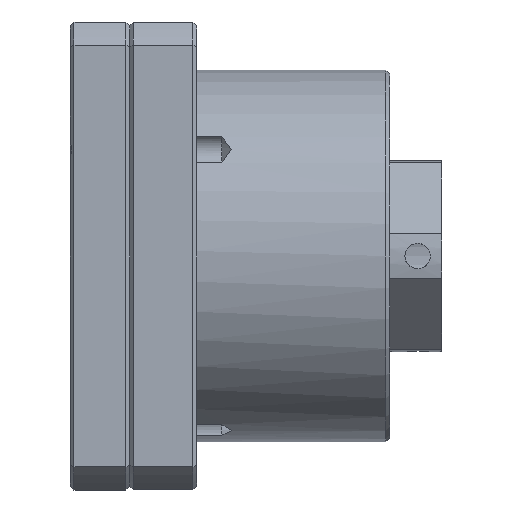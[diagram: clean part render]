
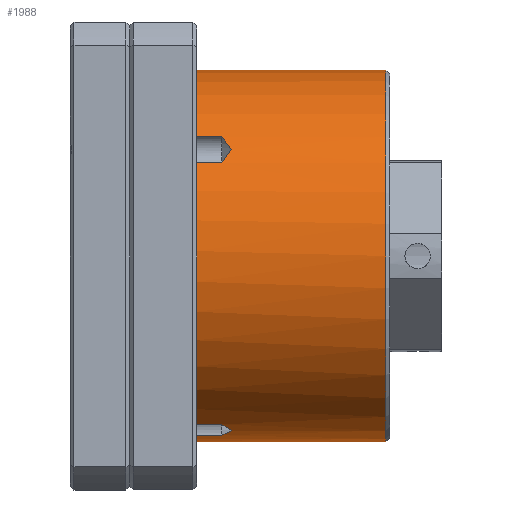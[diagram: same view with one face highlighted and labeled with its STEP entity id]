
A CAD part, left-side view. The second image highlights one B-rep face of the part: STEP entity #1988.
In plain terms, the highlighted cylindrical face has radius 25 mm (diameter 50 mm), a partial arc.
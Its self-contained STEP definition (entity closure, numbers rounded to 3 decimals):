
#35 = B_SPLINE_CURVE_WITH_KNOTS ( 'NONE', 3,
 ( #2983, #2976, #2883, #2877 ),
 .UNSPECIFIED., .F., .F.,
 ( 4, 4 ),
 ( 0.002, 0.004 ),
 .UNSPECIFIED. ) ;
#136 = ORIENTED_EDGE ( 'NONE', *, *, #5717, .T. ) ;
#171 = ORIENTED_EDGE ( 'NONE', *, *, #4234, .F. ) ;
#175 = CIRCLE ( 'NONE', #6071, 25. ) ;
#242 = EDGE_CURVE ( 'NONE', #1315, #852, #5081, .T. ) ;
#269 = VERTEX_POINT ( 'NONE', #5970 ) ;
#386 = AXIS2_PLACEMENT_3D ( 'NONE', #5128, #5052, #5229 ) ;
#432 = AXIS2_PLACEMENT_3D ( 'NONE', #7090, #7074, #7062 ) ;
#435 = CARTESIAN_POINT ( 'NONE',  ( -10.537, 26., -22.671 ) ) ;
#445 = EDGE_CURVE ( 'NONE', #813, #5179, #6396, .T. ) ;
#466 = B_SPLINE_CURVE_WITH_KNOTS ( 'NONE', 3,
 ( #1529, #1234, #1159, #1126 ),
 .UNSPECIFIED., .F., .F.,
 ( 4, 4 ),
 ( 0., 0.003 ),
 .UNSPECIFIED. ) ;
#512 = CARTESIAN_POINT ( 'NONE',  ( -21.635, 26., 12.527 ) ) ;
#599 = LINE ( 'NONE', #915, #4931 ) ;
#684 = DIRECTION ( 'NONE',  ( 0., 1., 0. ) ) ;
#716 = CARTESIAN_POINT ( 'NONE',  ( -19.171, 28.8, 16.046 ) ) ;
#813 = VERTEX_POINT ( 'NONE', #3562 ) ;
#852 = VERTEX_POINT ( 'NONE', #1835 ) ;
#915 = CARTESIAN_POINT ( 'NONE',  ( -10.537, 28.8, -22.671 ) ) ;
#1040 = CARTESIAN_POINT ( 'NONE',  ( 0., 0.5, -25. ) ) ;
#1126 = CARTESIAN_POINT ( 'NONE',  ( -10.537, 22.6, -22.671 ) ) ;
#1138 = VECTOR ( 'NONE', #5204, 1000. ) ;
#1159 = CARTESIAN_POINT ( 'NONE',  ( -9.888, 22.17, -22.973 ) ) ;
#1234 = CARTESIAN_POINT ( 'NONE',  ( -9.224, 21.739, -23.247 ) ) ;
#1267 = DIRECTION ( 'NONE',  ( 0., 1., 0. ) ) ;
#1276 = DIRECTION ( 'NONE',  ( 0., 0., -1. ) ) ;
#1292 = DIRECTION ( 'NONE',  ( 0., -1., 0. ) ) ;
#1298 = CARTESIAN_POINT ( 'NONE',  ( 0., 26., 0. ) ) ;
#1315 = VERTEX_POINT ( 'NONE', #4877 ) ;
#1424 = ORIENTED_EDGE ( 'NONE', *, *, #6551, .F. ) ;
#1453 = ORIENTED_EDGE ( 'NONE', *, *, #6581, .F. ) ;
#1519 = ORIENTED_EDGE ( 'NONE', *, *, #6034, .T. ) ;
#1529 = CARTESIAN_POINT ( 'NONE',  ( -8.551, 21.308, -23.492 ) ) ;
#1543 = VERTEX_POINT ( 'NONE', #512 ) ;
#1563 = CARTESIAN_POINT ( 'NONE',  ( -10.537, 22.6, -22.671 ) ) ;
#1585 = CARTESIAN_POINT ( 'NONE',  ( -6.5, 22.6, -24.14 ) ) ;
#1674 = EDGE_CURVE ( 'NONE', #2921, #813, #2643, .T. ) ;
#1835 = CARTESIAN_POINT ( 'NONE',  ( -19.171, 26., 16.046 ) ) ;
#1842 = VERTEX_POINT ( 'NONE', #1563 ) ;
#1874 = VECTOR ( 'NONE', #6944, 1000. ) ;
#1952 = ORIENTED_EDGE ( 'NONE', *, *, #4124, .F. ) ;
#1988 = ADVANCED_FACE ( 'NONE', ( #5933 ), #5778, .T. ) ;
#2083 = ORIENTED_EDGE ( 'NONE', *, *, #6763, .F. ) ;
#2110 = CARTESIAN_POINT ( 'NONE',  ( -6.5, 26., -24.14 ) ) ;
#2249 = ORIENTED_EDGE ( 'NONE', *, *, #5144, .T. ) ;
#2311 = VECTOR ( 'NONE', #684, 1000. ) ;
#2348 = EDGE_LOOP ( 'NONE', ( #3414, #2249, #5443, #6393, #6498, #1952, #1519, #1453, #1424, #2083, #171, #2762, #4710, #136 ) ) ;
#2442 = EDGE_CURVE ( 'NONE', #2982, #5490, #2681, .T. ) ;
#2594 = AXIS2_PLACEMENT_3D ( 'NONE', #5927, #5864, #5816 ) ;
#2643 = CIRCLE ( 'NONE', #2594, 25. ) ;
#2681 = LINE ( 'NONE', #5425, #4157 ) ;
#2706 = CARTESIAN_POINT ( 'NONE',  ( -7.192, 22.17, -23.954 ) ) ;
#2762 = ORIENTED_EDGE ( 'NONE', *, *, #1674, .T. ) ;
#2877 = CARTESIAN_POINT ( 'NONE',  ( -20.479, 21.308, 14.339 ) ) ;
#2883 = CARTESIAN_POINT ( 'NONE',  ( -20.89, 21.739, 13.753 ) ) ;
#2921 = VERTEX_POINT ( 'NONE', #2110 ) ;
#2976 = CARTESIAN_POINT ( 'NONE',  ( -21.276, 22.17, 13.147 ) ) ;
#2982 = VERTEX_POINT ( 'NONE', #3559 ) ;
#2983 = CARTESIAN_POINT ( 'NONE',  ( -21.635, 22.6, 12.527 ) ) ;
#3061 = CARTESIAN_POINT ( 'NONE',  ( -6.5, 22.6, -24.14 ) ) ;
#3255 = CARTESIAN_POINT ( 'NONE',  ( -8.551, 21.308, -23.492 ) ) ;
#3414 = ORIENTED_EDGE ( 'NONE', *, *, #2442, .F. ) ;
#3559 = CARTESIAN_POINT ( 'NONE',  ( 0., 26., 25. ) ) ;
#3562 = CARTESIAN_POINT ( 'NONE',  ( 0., 26., -25. ) ) ;
#3663 = CARTESIAN_POINT ( 'NONE',  ( -8.551, 21.308, -23.492 ) ) ;
#3956 = CIRCLE ( 'NONE', #5211, 25. ) ;
#4118 = LINE ( 'NONE', #5576, #1138 ) ;
#4124 = EDGE_CURVE ( 'NONE', #1543, #269, #6223, .T. ) ;
#4157 = VECTOR ( 'NONE', #5196, 1000. ) ;
#4164 = VERTEX_POINT ( 'NONE', #6614 ) ;
#4234 = EDGE_CURVE ( 'NONE', #2921, #4882, #4118, .T. ) ;
#4708 = CARTESIAN_POINT ( 'NONE',  ( 0., 0.5, 25. ) ) ;
#4710 = ORIENTED_EDGE ( 'NONE', *, *, #445, .T. ) ;
#4877 = CARTESIAN_POINT ( 'NONE',  ( -19.171, 22.6, 16.046 ) ) ;
#4882 = VERTEX_POINT ( 'NONE', #3061 ) ;
#4909 = CARTESIAN_POINT ( 'NONE',  ( 0., 0., -25. ) ) ;
#4912 = DIRECTION ( 'NONE',  ( 0., 0., -1. ) ) ;
#4931 = VECTOR ( 'NONE', #1267, 1000. ) ;
#4935 = DIRECTION ( 'NONE',  ( 0., -1., 0. ) ) ;
#4943 = CARTESIAN_POINT ( 'NONE',  ( 0., 26., 0. ) ) ;
#4966 = B_SPLINE_CURVE_WITH_KNOTS ( 'NONE', 3,
 ( #5728, #5554, #5475, #5468 ),
 .UNSPECIFIED., .F., .F.,
 ( 4, 4 ),
 ( 0., 0.003 ),
 .UNSPECIFIED. ) ;
#4992 = VECTOR ( 'NONE', #5487, 1000. ) ;
#5011 = B_SPLINE_CURVE_WITH_KNOTS ( 'NONE', 3,
 ( #1585, #2706, #6506, #3255 ),
 .UNSPECIFIED., .F., .F.,
 ( 4, 4 ),
 ( 0.002, 0.004 ),
 .UNSPECIFIED. ) ;
#5052 = DIRECTION ( 'NONE',  ( 0., -1., 0. ) ) ;
#5081 = LINE ( 'NONE', #716, #2311 ) ;
#5128 = CARTESIAN_POINT ( 'NONE',  ( 0., 0., 0. ) ) ;
#5144 = EDGE_CURVE ( 'NONE', #2982, #852, #175, .T. ) ;
#5179 = VERTEX_POINT ( 'NONE', #1040 ) ;
#5181 = CIRCLE ( 'NONE', #432, 25. ) ;
#5196 = DIRECTION ( 'NONE',  ( 0., -1., 0. ) ) ;
#5204 = DIRECTION ( 'NONE',  ( 0., -1., 0. ) ) ;
#5211 = AXIS2_PLACEMENT_3D ( 'NONE', #4943, #4935, #4912 ) ;
#5229 = DIRECTION ( 'NONE',  ( 0., 0., -1. ) ) ;
#5425 = CARTESIAN_POINT ( 'NONE',  ( 0., 0., 25. ) ) ;
#5443 = ORIENTED_EDGE ( 'NONE', *, *, #242, .F. ) ;
#5468 = CARTESIAN_POINT ( 'NONE',  ( -19.171, 22.6, 16.046 ) ) ;
#5475 = CARTESIAN_POINT ( 'NONE',  ( -19.631, 22.17, 15.496 ) ) ;
#5487 = DIRECTION ( 'NONE',  ( 0., -1., 0. ) ) ;
#5490 = VERTEX_POINT ( 'NONE', #4708 ) ;
#5554 = CARTESIAN_POINT ( 'NONE',  ( -20.067, 21.739, 14.927 ) ) ;
#5576 = CARTESIAN_POINT ( 'NONE',  ( -6.5, 28.8, -24.14 ) ) ;
#5717 = EDGE_CURVE ( 'NONE', #5179, #5490, #5181, .T. ) ;
#5728 = CARTESIAN_POINT ( 'NONE',  ( -20.479, 21.308, 14.339 ) ) ;
#5778 = CYLINDRICAL_SURFACE ( 'NONE', #386, 25. ) ;
#5816 = DIRECTION ( 'NONE',  ( 0., 0., -1. ) ) ;
#5864 = DIRECTION ( 'NONE',  ( 0., -1., 0. ) ) ;
#5927 = CARTESIAN_POINT ( 'NONE',  ( 0., 26., 0. ) ) ;
#5933 = FACE_OUTER_BOUND ( 'NONE', #2348, .T. ) ;
#5938 = EDGE_CURVE ( 'NONE', #4164, #1315, #4966, .T. ) ;
#5970 = CARTESIAN_POINT ( 'NONE',  ( -21.635, 22.6, 12.527 ) ) ;
#6034 = EDGE_CURVE ( 'NONE', #1543, #6672, #3956, .T. ) ;
#6071 = AXIS2_PLACEMENT_3D ( 'NONE', #1298, #1292, #1276 ) ;
#6191 = VERTEX_POINT ( 'NONE', #3663 ) ;
#6223 = LINE ( 'NONE', #7026, #1874 ) ;
#6290 = EDGE_CURVE ( 'NONE', #269, #4164, #35, .T. ) ;
#6393 = ORIENTED_EDGE ( 'NONE', *, *, #5938, .F. ) ;
#6396 = LINE ( 'NONE', #4909, #4992 ) ;
#6498 = ORIENTED_EDGE ( 'NONE', *, *, #6290, .F. ) ;
#6506 = CARTESIAN_POINT ( 'NONE',  ( -7.877, 21.739, -23.737 ) ) ;
#6551 = EDGE_CURVE ( 'NONE', #6191, #1842, #466, .T. ) ;
#6581 = EDGE_CURVE ( 'NONE', #1842, #6672, #599, .T. ) ;
#6614 = CARTESIAN_POINT ( 'NONE',  ( -20.479, 21.308, 14.339 ) ) ;
#6672 = VERTEX_POINT ( 'NONE', #435 ) ;
#6763 = EDGE_CURVE ( 'NONE', #4882, #6191, #5011, .T. ) ;
#6944 = DIRECTION ( 'NONE',  ( 0., -1., 0. ) ) ;
#7026 = CARTESIAN_POINT ( 'NONE',  ( -21.635, 28.8, 12.527 ) ) ;
#7062 = DIRECTION ( 'NONE',  ( 0., 0., -1. ) ) ;
#7074 = DIRECTION ( 'NONE',  ( 0., 1., 0. ) ) ;
#7090 = CARTESIAN_POINT ( 'NONE',  ( 0., 0.5, 0. ) ) ;
